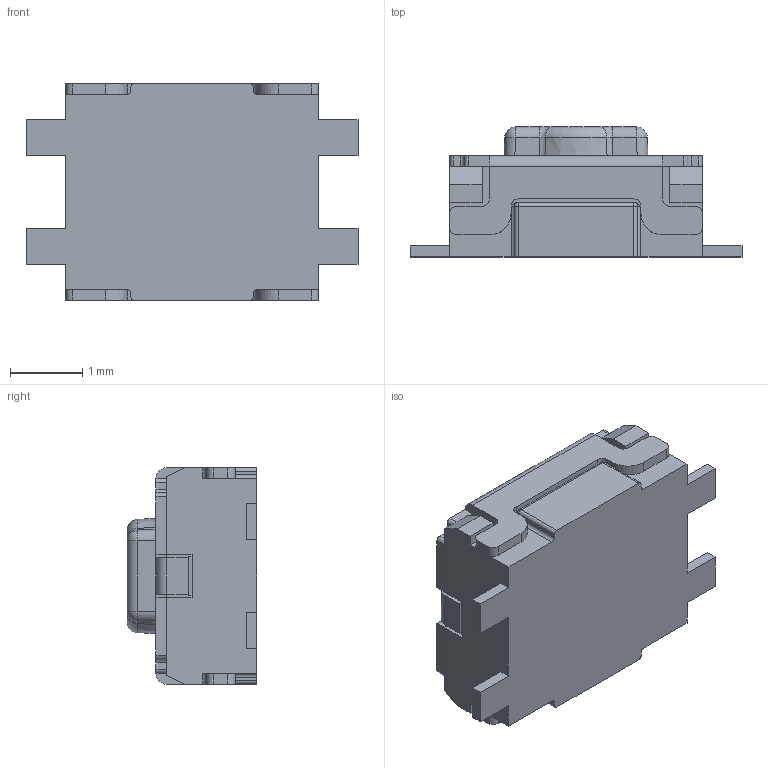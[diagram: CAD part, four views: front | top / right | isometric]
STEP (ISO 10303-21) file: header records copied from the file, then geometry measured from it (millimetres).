
FILE_DESCRIPTION((''),'2;1');
FILE_NAME('JQA3035Q-B0181-01BEG-1-105_ASM','2026-05-21T14:55:15',('Admin'),(''),'CREO PARAMETRIC BY PTC INC, 2019224','CREO PARAMETRIC BY PTC INC, 2019224','');
FILE_SCHEMA(('AUTOMOTIVE_DESIGN { 1 0 10303 214 1 1 1 1 }'));
Length unit declared in the file: millimetre
Products named in the file (3): JQA3035Q-B0181-01BEG-1-105_01; JQA3035Q-B0181-01BEG-1-105_02; JQA3035Q-B0181-01BEG-1-105_ASM
Assembly tree (2 placements, depth 2):
  JQA3035Q-B0181-01BEG-1-105_ASM
    JQA3035Q-B0181-01BEG-1-105_01
    JQA3035Q-B0181-01BEG-1-105_02
Bounding box: 4.6 x 1.8 x 3 mm (x, y, z)
Volume: 15.5 mm3; surface area: 68.9 mm2
Topology: 2 solids, 2 shells, 231 faces, 630 edges, 400 vertices
Faces by surface type: plane 137, cylinder 66, sphere 8, bspline 8, torus 6, extrusion 4, cone 2
Entity records: 8887 total; most frequent: CARTESIAN_POINT 1713, ORIENTED_EDGE 1252, DIRECTION 1190, EDGE_CURVE 626, VECTOR 452, LINE 448, VERTEX_POINT 400, AXIS2_PLACEMENT_3D 369
